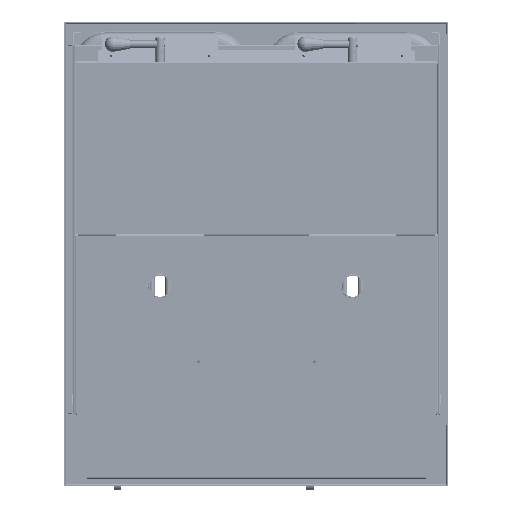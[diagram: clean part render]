
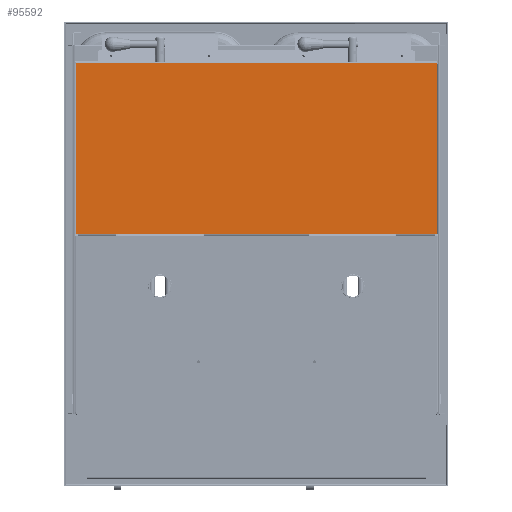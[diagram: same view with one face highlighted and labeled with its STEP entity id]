
A CAD part, front view. The second image highlights one B-rep face of the part: STEP entity #95592.
In plain terms, the highlighted planar face has unit normal (0, -1, 0).
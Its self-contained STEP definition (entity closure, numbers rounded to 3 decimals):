
#2469 = DIRECTION ( 'NONE',  ( 0., 0., -1. ) ) ;
#5096 = EDGE_CURVE ( 'NONE', #88304, #82245, #89517, .T. ) ;
#6362 = ORIENTED_EDGE ( 'NONE', *, *, #96889, .T. ) ;
#8410 = CARTESIAN_POINT ( 'NONE',  ( 233.5, -32.501, 67.2 ) ) ;
#9586 = EDGE_CURVE ( 'NONE', #46016, #101698, #118650, .T. ) ;
#9928 = PLANE ( 'NONE',  #148549 ) ;
#14953 = LINE ( 'NONE', #156221, #120692 ) ;
#16050 = ORIENTED_EDGE ( 'NONE', *, *, #68400, .F. ) ;
#25840 = CARTESIAN_POINT ( 'NONE',  ( -68., -32.501, 67.2 ) ) ;
#29768 = EDGE_CURVE ( 'NONE', #46268, #174762, #146426, .T. ) ;
#30257 = CARTESIAN_POINT ( 'NONE',  ( -235.5, -32.501, 67.2 ) ) ;
#30577 = DIRECTION ( 'NONE',  ( 1., 0., 0. ) ) ;
#33274 = CARTESIAN_POINT ( 'NONE',  ( 233., -32.501, 287.142 ) ) ;
#33650 = DIRECTION ( 'NONE',  ( 1., 0., 0. ) ) ;
#35459 = CARTESIAN_POINT ( 'NONE',  ( 230.5, -32.501, 67.2 ) ) ;
#37451 = CARTESIAN_POINT ( 'NONE',  ( -233.5, -32.501, 287.142 ) ) ;
#38581 = DIRECTION ( 'NONE',  ( -1., 0., 0. ) ) ;
#38677 = CARTESIAN_POINT ( 'NONE',  ( 181., -32.501, 67.2 ) ) ;
#45128 = CARTESIAN_POINT ( 'NONE',  ( -233.5, -32.501, 67.2 ) ) ;
#45761 = VERTEX_POINT ( 'NONE', #8410 ) ;
#46016 = VERTEX_POINT ( 'NONE', #38677 ) ;
#46268 = VERTEX_POINT ( 'NONE', #33274 ) ;
#48024 = CARTESIAN_POINT ( 'NONE',  ( 233., -32.501, 288.2 ) ) ;
#48751 = CARTESIAN_POINT ( 'NONE',  ( 235.5, -32.501, 288.2 ) ) ;
#56707 = VERTEX_POINT ( 'NONE', #48024 ) ;
#58709 = DIRECTION ( 'NONE',  ( -1., 0., 0. ) ) ;
#61424 = CARTESIAN_POINT ( 'NONE',  ( 0., -32.501, 178.7 ) ) ;
#61906 = CARTESIAN_POINT ( 'NONE',  ( -233., -32.501, 288.2 ) ) ;
#62647 = DIRECTION ( 'NONE',  ( -1., 0., 0. ) ) ;
#63499 = VERTEX_POINT ( 'NONE', #35459 ) ;
#65565 = DIRECTION ( 'NONE',  ( -1., 0., 0. ) ) ;
#67417 = CARTESIAN_POINT ( 'NONE',  ( 233.5, -32.501, 287.142 ) ) ;
#68021 = EDGE_CURVE ( 'NONE', #56707, #46268, #181588, .T. ) ;
#68387 = DIRECTION ( 'NONE',  ( 1., 0., 0. ) ) ;
#68400 = EDGE_CURVE ( 'NONE', #187128, #127981, #14953, .T. ) ;
#68577 = EDGE_CURVE ( 'NONE', #203915, #82245, #85382, .T. ) ;
#71388 = EDGE_CURVE ( 'NONE', #174762, #45761, #189029, .T. ) ;
#71644 = LINE ( 'NONE', #30257, #143340 ) ;
#73155 = VECTOR ( 'NONE', #62647, 1000. ) ;
#75916 = ORIENTED_EDGE ( 'NONE', *, *, #163375, .T. ) ;
#77232 = FACE_OUTER_BOUND ( 'NONE', #175805, .T. ) ;
#78470 = CARTESIAN_POINT ( 'NONE',  ( -235.5, -32.501, 67.2 ) ) ;
#82245 = VERTEX_POINT ( 'NONE', #191418 ) ;
#84215 = LINE ( 'NONE', #148553, #142107 ) ;
#85382 = LINE ( 'NONE', #103260, #109387 ) ;
#88097 = CARTESIAN_POINT ( 'NONE',  ( 68., -32.501, 67.2 ) ) ;
#88304 = VERTEX_POINT ( 'NONE', #198304 ) ;
#88786 = EDGE_CURVE ( 'NONE', #183038, #187128, #84215, .T. ) ;
#89517 = LINE ( 'NONE', #153845, #154496 ) ;
#89682 = VECTOR ( 'NONE', #157429, 1000. ) ;
#89955 = DIRECTION ( 'NONE',  ( -1., 0., 0. ) ) ;
#90339 = DIRECTION ( 'NONE',  ( 0., 0., 1. ) ) ;
#95127 = VECTOR ( 'NONE', #38581, 1000. ) ;
#95592 = ADVANCED_FACE ( 'NONE', ( #77232 ), #9928, .T. ) ;
#96889 = EDGE_CURVE ( 'NONE', #56707, #127981, #115088, .T. ) ;
#98954 = CARTESIAN_POINT ( 'NONE',  ( 233., -32.501, 287.142 ) ) ;
#101698 = VERTEX_POINT ( 'NONE', #138183 ) ;
#103260 = CARTESIAN_POINT ( 'NONE',  ( -68., -32.501, 67.2 ) ) ;
#106670 = CARTESIAN_POINT ( 'NONE',  ( -230.5, -32.501, 67.2 ) ) ;
#109387 = VECTOR ( 'NONE', #58709, 1000. ) ;
#111767 = ORIENTED_EDGE ( 'NONE', *, *, #68021, .F. ) ;
#115088 = LINE ( 'NONE', #48751, #152497 ) ;
#116558 = ORIENTED_EDGE ( 'NONE', *, *, #29768, .F. ) ;
#117058 = VECTOR ( 'NONE', #204720, 1000. ) ;
#118650 = LINE ( 'NONE', #88097, #95127 ) ;
#120692 = VECTOR ( 'NONE', #207746, 1000. ) ;
#122487 = LINE ( 'NONE', #106670, #117058 ) ;
#123629 = DIRECTION ( 'NONE',  ( 0., -1., 0. ) ) ;
#125048 = EDGE_CURVE ( 'NONE', #45761, #63499, #71644, .T. ) ;
#126461 = CARTESIAN_POINT ( 'NONE',  ( -230.5, -32.501, 67.2 ) ) ;
#127981 = VERTEX_POINT ( 'NONE', #61906 ) ;
#134373 = ORIENTED_EDGE ( 'NONE', *, *, #183425, .T. ) ;
#134562 = EDGE_CURVE ( 'NONE', #88304, #201197, #173411, .T. ) ;
#138183 = CARTESIAN_POINT ( 'NONE',  ( 68., -32.501, 67.2 ) ) ;
#140245 = LINE ( 'NONE', #126461, #158136 ) ;
#141443 = VECTOR ( 'NONE', #90339, 1000. ) ;
#141555 = ORIENTED_EDGE ( 'NONE', *, *, #5096, .T. ) ;
#142107 = VECTOR ( 'NONE', #68387, 1000. ) ;
#143340 = VECTOR ( 'NONE', #188398, 1000. ) ;
#146426 = LINE ( 'NONE', #98954, #200170 ) ;
#148549 = AXIS2_PLACEMENT_3D ( 'NONE', #61424, #123629, #89955 ) ;
#148553 = CARTESIAN_POINT ( 'NONE',  ( -233.5, -32.501, 287.142 ) ) ;
#148641 = EDGE_CURVE ( 'NONE', #201197, #183038, #202071, .T. ) ;
#152497 = VECTOR ( 'NONE', #65565, 1000. ) ;
#153845 = CARTESIAN_POINT ( 'NONE',  ( -230.5, -32.501, 67.2 ) ) ;
#154496 = VECTOR ( 'NONE', #202290, 1000. ) ;
#156221 = CARTESIAN_POINT ( 'NONE',  ( -233., -32.501, 287.142 ) ) ;
#157314 = ORIENTED_EDGE ( 'NONE', *, *, #125048, .F. ) ;
#157429 = DIRECTION ( 'NONE',  ( 0., 0., -1. ) ) ;
#158136 = VECTOR ( 'NONE', #30577, 1000. ) ;
#161658 = CARTESIAN_POINT ( 'NONE',  ( 233., -32.501, 287.642 ) ) ;
#163375 = EDGE_CURVE ( 'NONE', #203915, #101698, #140245, .T. ) ;
#164638 = ORIENTED_EDGE ( 'NONE', *, *, #71388, .F. ) ;
#165807 = ORIENTED_EDGE ( 'NONE', *, *, #9586, .F. ) ;
#173233 = CARTESIAN_POINT ( 'NONE',  ( 233.5, -32.501, 287.142 ) ) ;
#173411 = LINE ( 'NONE', #78470, #73155 ) ;
#174762 = VERTEX_POINT ( 'NONE', #67417 ) ;
#175805 = EDGE_LOOP ( 'NONE', ( #6362, #16050, #199090, #179977, #184008, #141555, #193796, #75916, #165807, #134373, #157314, #164638, #116558, #111767 ) ) ;
#179977 = ORIENTED_EDGE ( 'NONE', *, *, #148641, .F. ) ;
#181588 = LINE ( 'NONE', #161658, #197506 ) ;
#183038 = VERTEX_POINT ( 'NONE', #37451 ) ;
#183425 = EDGE_CURVE ( 'NONE', #46016, #63499, #122487, .T. ) ;
#184008 = ORIENTED_EDGE ( 'NONE', *, *, #134562, .F. ) ;
#187128 = VERTEX_POINT ( 'NONE', #191712 ) ;
#187322 = CARTESIAN_POINT ( 'NONE',  ( -233.5, -32.501, 67.2 ) ) ;
#188398 = DIRECTION ( 'NONE',  ( -1., 0., 0. ) ) ;
#189029 = LINE ( 'NONE', #173233, #89682 ) ;
#191418 = CARTESIAN_POINT ( 'NONE',  ( -181., -32.501, 67.2 ) ) ;
#191712 = CARTESIAN_POINT ( 'NONE',  ( -233., -32.501, 287.142 ) ) ;
#193796 = ORIENTED_EDGE ( 'NONE', *, *, #68577, .F. ) ;
#197506 = VECTOR ( 'NONE', #2469, 1000. ) ;
#198304 = CARTESIAN_POINT ( 'NONE',  ( -230.5, -32.501, 67.2 ) ) ;
#199090 = ORIENTED_EDGE ( 'NONE', *, *, #88786, .F. ) ;
#200170 = VECTOR ( 'NONE', #33650, 1000. ) ;
#201197 = VERTEX_POINT ( 'NONE', #45128 ) ;
#202071 = LINE ( 'NONE', #187322, #141443 ) ;
#202290 = DIRECTION ( 'NONE',  ( 1., 0., 0. ) ) ;
#203915 = VERTEX_POINT ( 'NONE', #25840 ) ;
#204720 = DIRECTION ( 'NONE',  ( 1., 0., 0. ) ) ;
#207746 = DIRECTION ( 'NONE',  ( 0., 0., 1. ) ) ;
